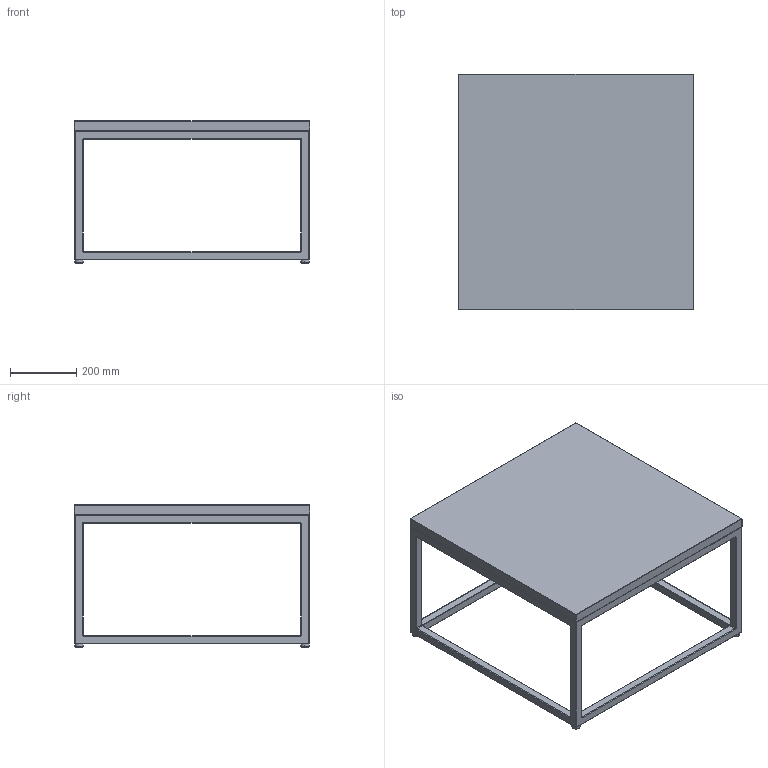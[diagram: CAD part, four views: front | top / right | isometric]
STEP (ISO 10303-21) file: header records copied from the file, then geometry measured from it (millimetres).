
FILE_DESCRIPTION(/* description */ (''),/* implementation_level */ '2;1');
FILE_NAME(/* name */ 'K1DYV3~O',/* time_stamp */ '2020-06-19T17:26:33+09:00',/* author */ (''),/* organization */ (''),/* preprocessor_version */ 'ST-DEVELOPER v15',/* originating_system */ '',/* authorisation */ '');
FILE_SCHEMA (('AUTOMOTIVE_DESIGN'));
Length unit declared in the file: millimetre
Products named in the file (1): Document
Bounding box: 710 x 710 x 430 mm (x, y, z)
Volume: 15139298.4 mm3; surface area: 1755070.4 mm2
Topology: 5 solids, 6 shells, 184 faces, 401 edges, 217 vertices
Faces by surface type: bspline 140, plane 44
Entity records: 5602 total; most frequent: CARTESIAN_POINT 3317, ORIENTED_EDGE 752, EDGE_CURVE 400, VERTEX_POINT 216, EDGE_LOOP 190, ADVANCED_FACE 184, FACE_OUTER_BOUND 184, B_SPLINE_CURVE_WITH_KNOTS 169
